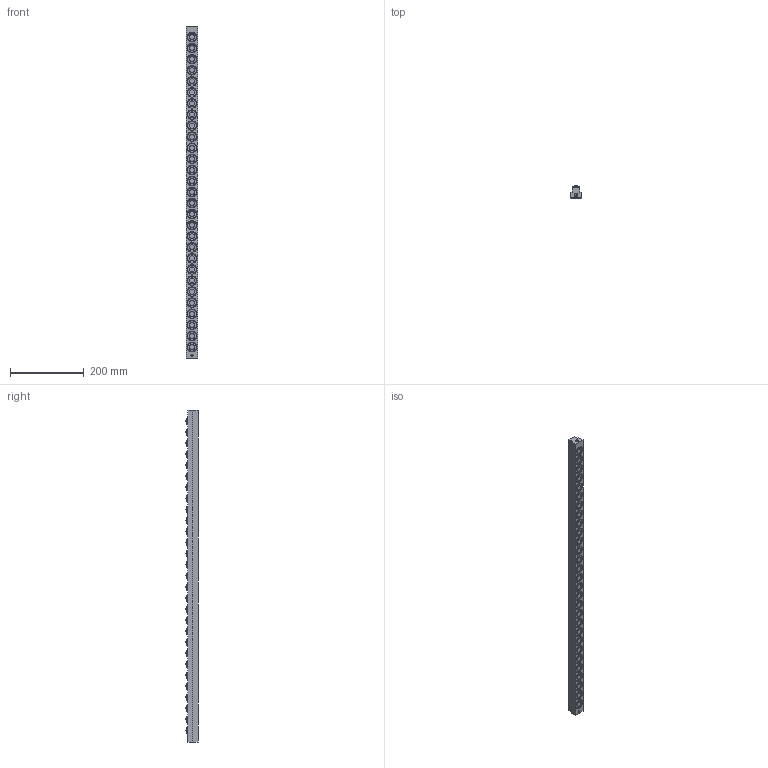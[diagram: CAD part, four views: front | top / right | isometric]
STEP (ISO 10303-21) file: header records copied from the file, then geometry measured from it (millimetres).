
FILE_DESCRIPTION (( 'STEP AP203' ), '1' );
FILE_NAME ('PVL20T-29.STEP', '2016-02-18T07:20:32', ( '' ), ( '' ), 'SwSTEP 2.0', 'SolidWorks 2013', '' );
FILE_SCHEMA (( 'CONFIG_CONTROL_DESIGN' ));
Length unit declared in the file: millimetre
Products named in the file (1): PVL20T-29
Bounding box: 30 x 34 x 900 mm (x, y, z)
Volume: 663450.7 mm3; surface area: 118774.5 mm2
Topology: 1 solids, 1 shells, 834 faces, 1995 edges, 1338 vertices
Faces by surface type: cylinder 470, plane 244, torus 58, sphere 58, cone 4
Entity records: 25034 total; most frequent: DIRECTION 4955, CARTESIAN_POINT 4166, ORIENTED_EDGE 3986, AXIS2_PLACEMENT_3D 2127, EDGE_CURVE 1993, VERTEX_POINT 1338, CIRCLE 1292, EDGE_LOOP 1013
